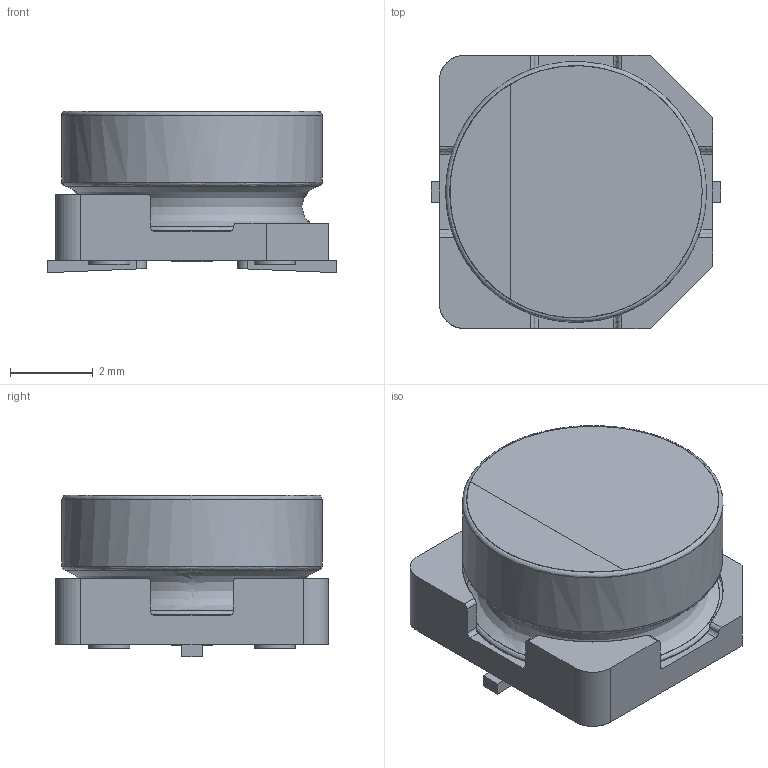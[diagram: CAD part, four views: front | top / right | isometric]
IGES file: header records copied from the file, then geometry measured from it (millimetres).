
Start section: JAMA-IS VERSION  1.0
Bounding box: 7 x 6.6 x 3.9 mm (x, y, z)
Surface area: 261.6 mm2 (no closed solid volume)
Topology: 0 solids, 0 shells, 74 faces, 994 edges, 976 vertices
Faces by surface type: bspline 74
